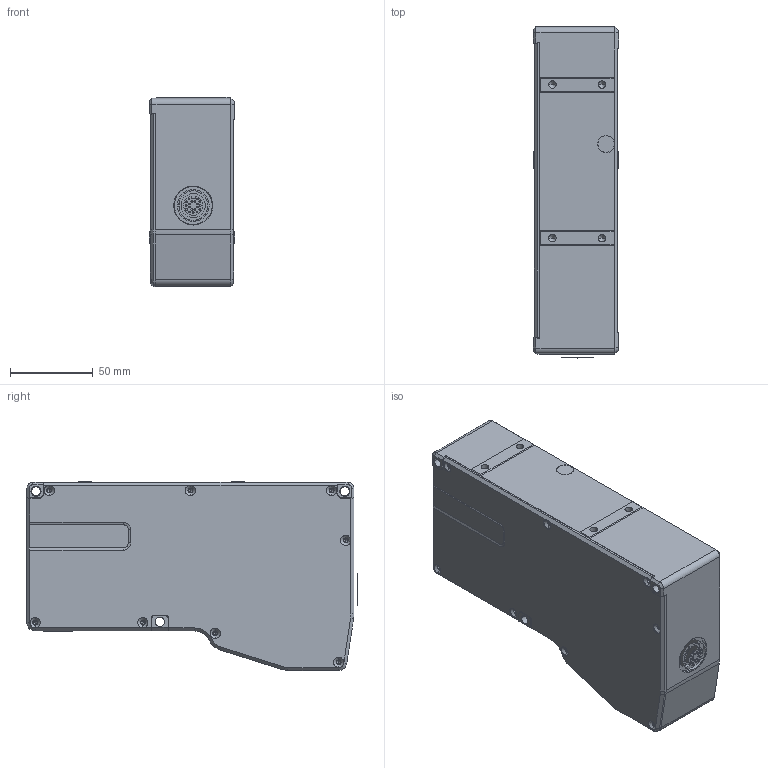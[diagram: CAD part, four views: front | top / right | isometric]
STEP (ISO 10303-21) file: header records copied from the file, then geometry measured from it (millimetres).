
FILE_DESCRIPTION((''),'2;1');
FILE_NAME('PRT0001','2024-03-27T17:21:24',('gz'),(''),'CREO PARAMETRIC BY PTC INC, 2020154','CREO PARAMETRIC BY PTC INC, 2020154','');
FILE_SCHEMA(('AUTOMOTIVE_DESIGN { 1 0 10303 214 1 1 1 1 }'));
Length unit declared in the file: millimetre
Products named in the file (1): PRT0001
Bounding box: 51.5 x 200.9 x 114.5 mm (x, y, z)
Surface area: 150223.5 mm2 (no closed solid volume)
Topology: 0 solids, 11 shells, 1419 faces, 3883 edges, 2516 vertices
Faces by surface type: cylinder 526, plane 511, cone 301, extrusion 80, bspline 1
Entity records: 55883 total; most frequent: CARTESIAN_POINT 9319, DIRECTION 7907, ORIENTED_EDGE 7564, EDGE_CURVE 3815, AXIS2_PLACEMENT_3D 2884, VERTEX_POINT 2516, VECTOR 2139, LINE 2059
